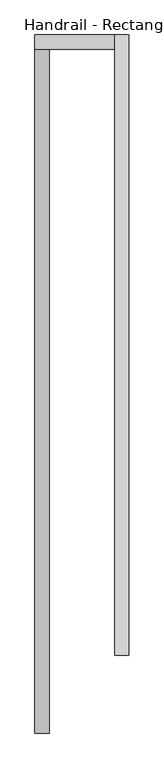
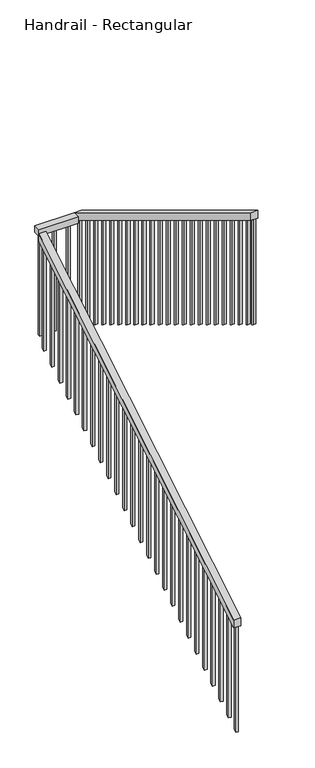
"""IFC4 building model written with IfcOpenShell, lengths in millimetres: railing geometry, Handrail - Rectangular."""

from ifc_helpers import new_model, si_unit, frame, origin, place, context, project, spatial, polyline, outline, extrude, source, transform, mapped, element, save


def handrail_rectangular_f2ca4272(model_context):
    return source(origin(), model_context, "Body", "SweptSolid", [
        extrude(outline(polyline([(-12664.4103492, -2023.6681269), (-12664.4103492, -1964.2666667), (-10200.6103492, -471.0545455), (-10200.6103492, -530.4560057), (-12664.4103492, -2023.6681269)])), frame((-31627.7668129, 0.0, 0.0), z_axis=(1.0, 0.0, 0.0), x_axis=(0.0, 1.0, 0.0)), (0.0, 0.0, 1.0), 50.8),
        extrude(outline(polyline([(-31627.7668129, -10200.6103492), (-31627.7668129, -10149.8103492), (-31339.9187724, -10149.8103492), (-31339.9187724, -10200.6103492), (-31627.7668129, -10200.6103492)])), frame((0.0, 0.0, -491.0666667), z_axis=(0.0, 0.0, 1.0), x_axis=(1.0, 0.0, 0.0)), (0.0, 0.0, 1.0), 50.8),
        extrude(outline(polyline([(-10149.8103492, -440.2666667), (-10149.8103492, -499.6681269), (-12385.0103492, 854.9985397), (-12385.0103492, 914.4), (-10149.8103492, -440.2666667)])), frame((-31339.9187724, 0.0, 0.0), z_axis=(1.0, 0.0, 0.0), x_axis=(0.0, 1.0, 0.0)), (0.0, 0.0, 1.0), 50.8),
        extrude(outline(polyline([(-12318.3353492, 814.5894488), (-12299.2853492, 803.0439943), (-12299.2853492, -9.1733668), (-12318.3353492, 2.3720877), (-12318.3353492, 814.5894488)])), frame((-31324.0437724, 0.0, 0.0), z_axis=(1.0, 0.0, 0.0), x_axis=(0.0, 1.0, 0.0)), (0.0, 0.0, 1.0), 19.05),
        extrude(outline(polyline([(-12216.7353492, 753.0136913), (-12197.6853492, 741.4682367), (-12197.6853492, -70.7491244), (-12216.7353492, -59.2036699), (-12216.7353492, 753.0136913)])), frame((-31324.0437724, 0.0, 0.0), z_axis=(1.0, 0.0, 0.0), x_axis=(0.0, 1.0, 0.0)), (0.0, 0.0, 1.0), 19.05),
        extrude(outline(polyline([(-12115.1353492, 691.4379337), (-12096.0853492, 679.8924791), (-12096.0853492, -132.324882), (-12115.1353492, -120.7794274), (-12115.1353492, 691.4379337)])), frame((-31324.0437724, 0.0, 0.0), z_axis=(1.0, 0.0, 0.0), x_axis=(0.0, 1.0, 0.0)), (0.0, 0.0, 1.0), 19.05),
        extrude(outline(polyline([(-12013.5353492, 629.8621761), (-11994.4853492, 618.3167216), (-11994.4853492, -193.9006396), (-12013.5353492, -182.355185), (-12013.5353492, 629.8621761)])), frame((-31324.0437724, 0.0, 0.0), z_axis=(1.0, 0.0, 0.0), x_axis=(0.0, 1.0, 0.0)), (0.0, 0.0, 1.0), 19.05),
        extrude(outline(polyline([(-11911.9353492, 568.2864185), (-11892.8853492, 556.740964), (-11892.8853492, -255.4763971), (-11911.9353492, -243.9309426), (-11911.9353492, 568.2864185)])), frame((-31324.0437724, 0.0, 0.0), z_axis=(1.0, 0.0, 0.0), x_axis=(0.0, 1.0, 0.0)), (0.0, 0.0, 1.0), 19.05),
        extrude(outline(polyline([(-11810.3353492, 506.710661), (-11791.2853492, 495.1652064), (-11791.2853492, -317.0521547), (-11810.3353492, -305.5067002), (-11810.3353492, 506.710661)])), frame((-31324.0437724, 0.0, 0.0), z_axis=(1.0, 0.0, 0.0), x_axis=(0.0, 1.0, 0.0)), (0.0, 0.0, 1.0), 19.05),
        extrude(outline(polyline([(-11708.7353492, 445.1349034), (-11689.6853492, 433.5894488), (-11689.6853492, -378.6279123), (-11708.7353492, -367.0824577), (-11708.7353492, 445.1349034)])), frame((-31324.0437724, 0.0, 0.0), z_axis=(1.0, 0.0, 0.0), x_axis=(0.0, 1.0, 0.0)), (0.0, 0.0, 1.0), 19.05),
        extrude(outline(polyline([(-11607.1353492, 383.5591458), (-11588.0853492, 372.0136913), (-11588.0853492, -440.2036699), (-11607.1353492, -428.6582153), (-11607.1353492, 383.5591458)])), frame((-31324.0437724, 0.0, 0.0), z_axis=(1.0, 0.0, 0.0), x_axis=(0.0, 1.0, 0.0)), (0.0, 0.0, 1.0), 19.05),
        extrude(outline(polyline([(-11505.5353492, 321.9833882), (-11486.4853492, 310.4379337), (-11486.4853492, -501.7794274), (-11505.5353492, -490.2339729), (-11505.5353492, 321.9833882)])), frame((-31324.0437724, 0.0, 0.0), z_axis=(1.0, 0.0, 0.0), x_axis=(0.0, 1.0, 0.0)), (0.0, 0.0, 1.0), 19.05),
        extrude(outline(polyline([(-11403.9353492, 260.4076307), (-11384.8853492, 248.8621761), (-11384.8853492, -563.355185), (-11403.9353492, -551.8097305), (-11403.9353492, 260.4076307)])), frame((-31324.0437724, 0.0, 0.0), z_axis=(1.0, 0.0, 0.0), x_axis=(0.0, 1.0, 0.0)), (0.0, 0.0, 1.0), 19.05),
        extrude(outline(polyline([(-11302.3353492, 198.8318731), (-11283.2853492, 187.2864185), (-11283.2853492, -624.9309426), (-11302.3353492, -613.385488), (-11302.3353492, 198.8318731)])), frame((-31324.0437724, 0.0, 0.0), z_axis=(1.0, 0.0, 0.0), x_axis=(0.0, 1.0, 0.0)), (0.0, 0.0, 1.0), 19.05),
        extrude(outline(polyline([(-11200.7353492, 137.2561155), (-11181.6853492, 125.710661), (-11181.6853492, -686.5067002), (-11200.7353492, -674.9612456), (-11200.7353492, 137.2561155)])), frame((-31324.0437724, 0.0, 0.0), z_axis=(1.0, 0.0, 0.0), x_axis=(0.0, 1.0, 0.0)), (0.0, 0.0, 1.0), 19.05),
        extrude(outline(polyline([(-11099.1353492, 75.6803579), (-11080.0853492, 64.1349034), (-11080.0853492, -748.0824577), (-11099.1353492, -736.5370032), (-11099.1353492, 75.6803579)])), frame((-31324.0437724, 0.0, 0.0), z_axis=(1.0, 0.0, 0.0), x_axis=(0.0, 1.0, 0.0)), (0.0, 0.0, 1.0), 19.05),
        extrude(outline(polyline([(-10997.5353492, 14.1046004), (-10978.4853492, 2.5591458), (-10978.4853492, -809.6582153), (-10997.5353492, -798.1127608), (-10997.5353492, 14.1046004)])), frame((-31324.0437724, 0.0, 0.0), z_axis=(1.0, 0.0, 0.0), x_axis=(0.0, 1.0, 0.0)), (0.0, 0.0, 1.0), 19.05),
        extrude(outline(polyline([(-10895.9353492, -47.4711572), (-10876.8853492, -59.0166118), (-10876.8853492, -871.2339729), (-10895.9353492, -859.6885183), (-10895.9353492, -47.4711572)])), frame((-31324.0437724, 0.0, 0.0), z_axis=(1.0, 0.0, 0.0), x_axis=(0.0, 1.0, 0.0)), (0.0, 0.0, 1.0), 19.05),
        extrude(outline(polyline([(-10794.3353492, -109.0469148), (-10775.2853492, -120.5923693), (-10775.2853492, -932.8097305), (-10794.3353492, -921.2642759), (-10794.3353492, -109.0469148)])), frame((-31324.0437724, 0.0, 0.0), z_axis=(1.0, 0.0, 0.0), x_axis=(0.0, 1.0, 0.0)), (0.0, 0.0, 1.0), 19.05),
        extrude(outline(polyline([(-10692.7353492, -170.6226724), (-10673.6853492, -182.1681269), (-10673.6853492, -994.385488), (-10692.7353492, -982.8400335), (-10692.7353492, -170.6226724)])), frame((-31324.0437724, 0.0, 0.0), z_axis=(1.0, 0.0, 0.0), x_axis=(0.0, 1.0, 0.0)), (0.0, 0.0, 1.0), 19.05),
        extrude(outline(polyline([(-10591.1353492, -232.19843), (-10572.0853492, -243.7438845), (-10572.0853492, -1055.9612456), (-10591.1353492, -1044.4157911), (-10591.1353492, -232.19843)])), frame((-31324.0437724, 0.0, 0.0), z_axis=(1.0, 0.0, 0.0), x_axis=(0.0, 1.0, 0.0)), (0.0, 0.0, 1.0), 19.05),
        extrude(outline(polyline([(-10489.5353492, -293.7741875), (-10470.4853492, -305.3196421), (-10470.4853492, -1117.5370032), (-10489.5353492, -1105.9915486), (-10489.5353492, -293.7741875)])), frame((-31324.0437724, 0.0, 0.0), z_axis=(1.0, 0.0, 0.0), x_axis=(0.0, 1.0, 0.0)), (0.0, 0.0, 1.0), 19.05),
        extrude(outline(polyline([(-10387.9353492, -355.3499451), (-10368.8853492, -366.8953996), (-10368.8853492, -1179.1127608), (-10387.9353492, -1167.5673062), (-10387.9353492, -355.3499451)])), frame((-31324.0437724, 0.0, 0.0), z_axis=(1.0, 0.0, 0.0), x_axis=(0.0, 1.0, 0.0)), (0.0, 0.0, 1.0), 19.05),
        extrude(outline(polyline([(-10286.3353492, -416.9257027), (-10267.2853492, -428.4711572), (-10267.2853492, -1240.6885183), (-10286.3353492, -1229.1430638), (-10286.3353492, -416.9257027)])), frame((-31324.0437724, 0.0, 0.0), z_axis=(1.0, 0.0, 0.0), x_axis=(0.0, 1.0, 0.0)), (0.0, 0.0, 1.0), 19.05),
        extrude(outline(polyline([(-31408.6918129, -10184.7353492), (-31408.6918129, -10165.6853492), (-31389.6418129, -10165.6853492), (-31389.6418129, -10184.7353492), (-31408.6918129, -10184.7353492)])), frame((0.0, 0.0, -1278.4666667), z_axis=(0.0, 0.0, 1.0), x_axis=(1.0, 0.0, 0.0)), (0.0, 0.0, 1.0), 787.4),
        extrude(outline(polyline([(-31510.2918129, -10184.7353492), (-31510.2918129, -10165.6853492), (-31491.2418129, -10165.6853492), (-31491.2418129, -10184.7353492), (-31510.2918129, -10184.7353492)])), frame((0.0, 0.0, -1278.4666667), z_axis=(0.0, 0.0, 1.0), x_axis=(1.0, 0.0, 0.0)), (0.0, 0.0, 1.0), 787.4),
        extrude(outline(polyline([(-10235.5353492, -551.6226724), (-10216.4853492, -540.0772178), (-10216.4853492, -1352.2945789), (-10235.5353492, -1363.8400335), (-10235.5353492, -551.6226724)])), frame((-31611.8918129, 0.0, 0.0), z_axis=(1.0, 0.0, 0.0), x_axis=(0.0, 1.0, 0.0)), (0.0, 0.0, 1.0), 19.05),
        extrude(outline(polyline([(-10337.1353492, -613.19843), (-10318.0853492, -601.6529754), (-10318.0853492, -1413.8703365), (-10337.1353492, -1425.4157911), (-10337.1353492, -613.19843)])), frame((-31611.8918129, 0.0, 0.0), z_axis=(1.0, 0.0, 0.0), x_axis=(0.0, 1.0, 0.0)), (0.0, 0.0, 1.0), 19.05),
        extrude(outline(polyline([(-10438.7353492, -674.7741875), (-10419.6853492, -663.228733), (-10419.6853492, -1475.4460941), (-10438.7353492, -1486.9915486), (-10438.7353492, -674.7741875)])), frame((-31611.8918129, 0.0, 0.0), z_axis=(1.0, 0.0, 0.0), x_axis=(0.0, 1.0, 0.0)), (0.0, 0.0, 1.0), 19.05),
        extrude(outline(polyline([(-10540.3353492, -736.3499451), (-10521.2853492, -724.8044906), (-10521.2853492, -1537.0218517), (-10540.3353492, -1548.5673062), (-10540.3353492, -736.3499451)])), frame((-31611.8918129, 0.0, 0.0), z_axis=(1.0, 0.0, 0.0), x_axis=(0.0, 1.0, 0.0)), (0.0, 0.0, 1.0), 19.05),
        extrude(outline(polyline([(-10641.9353492, -797.9257027), (-10622.8853492, -786.3802481), (-10622.8853492, -1598.5976092), (-10641.9353492, -1610.1430638), (-10641.9353492, -797.9257027)])), frame((-31611.8918129, 0.0, 0.0), z_axis=(1.0, 0.0, 0.0), x_axis=(0.0, 1.0, 0.0)), (0.0, 0.0, 1.0), 19.05),
        extrude(outline(polyline([(-10743.5353492, -859.5014603), (-10724.4853492, -847.9560057), (-10724.4853492, -1660.1733668), (-10743.5353492, -1671.7188214), (-10743.5353492, -859.5014603)])), frame((-31611.8918129, 0.0, 0.0), z_axis=(1.0, 0.0, 0.0), x_axis=(0.0, 1.0, 0.0)), (0.0, 0.0, 1.0), 19.05),
        extrude(outline(polyline([(-10845.1353492, -921.0772178), (-10826.0853492, -909.5317633), (-10826.0853492, -1721.7491244), (-10845.1353492, -1733.2945789), (-10845.1353492, -921.0772178)])), frame((-31611.8918129, 0.0, 0.0), z_axis=(1.0, 0.0, 0.0), x_axis=(0.0, 1.0, 0.0)), (0.0, 0.0, 1.0), 19.05),
        extrude(outline(polyline([(-10946.7353492, -982.6529754), (-10927.6853492, -971.1075209), (-10927.6853492, -1783.324882), (-10946.7353492, -1794.8703365), (-10946.7353492, -982.6529754)])), frame((-31611.8918129, 0.0, 0.0), z_axis=(1.0, 0.0, 0.0), x_axis=(0.0, 1.0, 0.0)), (0.0, 0.0, 1.0), 19.05),
        extrude(outline(polyline([(-11048.3353492, -1044.228733), (-11029.2853492, -1032.6832784), (-11029.2853492, -1844.9006396), (-11048.3353492, -1856.4460941), (-11048.3353492, -1044.228733)])), frame((-31611.8918129, 0.0, 0.0), z_axis=(1.0, 0.0, 0.0), x_axis=(0.0, 1.0, 0.0)), (0.0, 0.0, 1.0), 19.05),
        extrude(outline(polyline([(-11149.9353492, -1105.8044906), (-11130.8853492, -1094.259036), (-11130.8853492, -1906.4763971), (-11149.9353492, -1918.0218517), (-11149.9353492, -1105.8044906)])), frame((-31611.8918129, 0.0, 0.0), z_axis=(1.0, 0.0, 0.0), x_axis=(0.0, 1.0, 0.0)), (0.0, 0.0, 1.0), 19.05),
        extrude(outline(polyline([(-11251.5353492, -1167.3802481), (-11232.4853492, -1155.8347936), (-11232.4853492, -1968.0521547), (-11251.5353492, -1979.5976092), (-11251.5353492, -1167.3802481)])), frame((-31611.8918129, 0.0, 0.0), z_axis=(1.0, 0.0, 0.0), x_axis=(0.0, 1.0, 0.0)), (0.0, 0.0, 1.0), 19.05),
        extrude(outline(polyline([(-11353.1353492, -1228.9560057), (-11334.0853492, -1217.4105512), (-11334.0853492, -2029.6279123), (-11353.1353492, -2041.1733668), (-11353.1353492, -1228.9560057)])), frame((-31611.8918129, 0.0, 0.0), z_axis=(1.0, 0.0, 0.0), x_axis=(0.0, 1.0, 0.0)), (0.0, 0.0, 1.0), 19.05),
        extrude(outline(polyline([(-11454.7353492, -1290.5317633), (-11435.6853492, -1278.9863087), (-11435.6853492, -2091.2036699), (-11454.7353492, -2102.7491244), (-11454.7353492, -1290.5317633)])), frame((-31611.8918129, 0.0, 0.0), z_axis=(1.0, 0.0, 0.0), x_axis=(0.0, 1.0, 0.0)), (0.0, 0.0, 1.0), 19.05),
        extrude(outline(polyline([(-11556.3353492, -1352.1075209), (-11537.2853492, -1340.5620663), (-11537.2853492, -2152.7794274), (-11556.3353492, -2164.324882), (-11556.3353492, -1352.1075209)])), frame((-31611.8918129, 0.0, 0.0), z_axis=(1.0, 0.0, 0.0), x_axis=(0.0, 1.0, 0.0)), (0.0, 0.0, 1.0), 19.05),
        extrude(outline(polyline([(-11657.9353492, -1413.6832784), (-11638.8853492, -1402.1378239), (-11638.8853492, -2214.355185), (-11657.9353492, -2225.9006396), (-11657.9353492, -1413.6832784)])), frame((-31611.8918129, 0.0, 0.0), z_axis=(1.0, 0.0, 0.0), x_axis=(0.0, 1.0, 0.0)), (0.0, 0.0, 1.0), 19.05),
        extrude(outline(polyline([(-11759.5353492, -1475.259036), (-11740.4853492, -1463.7135815), (-11740.4853492, -2275.9309426), (-11759.5353492, -2287.4763971), (-11759.5353492, -1475.259036)])), frame((-31611.8918129, 0.0, 0.0), z_axis=(1.0, 0.0, 0.0), x_axis=(0.0, 1.0, 0.0)), (0.0, 0.0, 1.0), 19.05),
        extrude(outline(polyline([(-11861.1353492, -1536.8347936), (-11842.0853492, -1525.289339), (-11842.0853492, -2337.5067002), (-11861.1353492, -2349.0521547), (-11861.1353492, -1536.8347936)])), frame((-31611.8918129, 0.0, 0.0), z_axis=(1.0, 0.0, 0.0), x_axis=(0.0, 1.0, 0.0)), (0.0, 0.0, 1.0), 19.05),
        extrude(outline(polyline([(-11962.7353492, -1598.4105512), (-11943.6853492, -1586.8650966), (-11943.6853492, -2399.0824577), (-11962.7353492, -2410.6279123), (-11962.7353492, -1598.4105512)])), frame((-31611.8918129, 0.0, 0.0), z_axis=(1.0, 0.0, 0.0), x_axis=(0.0, 1.0, 0.0)), (0.0, 0.0, 1.0), 19.05),
        extrude(outline(polyline([(-12064.3353492, -1659.9863087), (-12045.2853492, -1648.4408542), (-12045.2853492, -2460.6582153), (-12064.3353492, -2472.2036699), (-12064.3353492, -1659.9863087)])), frame((-31611.8918129, 0.0, 0.0), z_axis=(1.0, 0.0, 0.0), x_axis=(0.0, 1.0, 0.0)), (0.0, 0.0, 1.0), 19.05),
        extrude(outline(polyline([(-12165.9353492, -1721.5620663), (-12146.8853492, -1710.0166118), (-12146.8853492, -2522.2339729), (-12165.9353492, -2533.7794274), (-12165.9353492, -1721.5620663)])), frame((-31611.8918129, 0.0, 0.0), z_axis=(1.0, 0.0, 0.0), x_axis=(0.0, 1.0, 0.0)), (0.0, 0.0, 1.0), 19.05),
        extrude(outline(polyline([(-12267.5353492, -1783.1378239), (-12248.4853492, -1771.5923693), (-12248.4853492, -2583.8097305), (-12267.5353492, -2595.355185), (-12267.5353492, -1783.1378239)])), frame((-31611.8918129, 0.0, 0.0), z_axis=(1.0, 0.0, 0.0), x_axis=(0.0, 1.0, 0.0)), (0.0, 0.0, 1.0), 19.05),
        extrude(outline(polyline([(-12369.1353492, -1844.7135815), (-12350.0853492, -1833.1681269), (-12350.0853492, -2645.385488), (-12369.1353492, -2656.9309426), (-12369.1353492, -1844.7135815)])), frame((-31611.8918129, 0.0, 0.0), z_axis=(1.0, 0.0, 0.0), x_axis=(0.0, 1.0, 0.0)), (0.0, 0.0, 1.0), 19.05),
        extrude(outline(polyline([(-12470.7353492, -1906.289339), (-12451.6853492, -1894.7438845), (-12451.6853492, -2706.9612456), (-12470.7353492, -2718.5067002), (-12470.7353492, -1906.289339)])), frame((-31611.8918129, 0.0, 0.0), z_axis=(1.0, 0.0, 0.0), x_axis=(0.0, 1.0, 0.0)), (0.0, 0.0, 1.0), 19.05),
        extrude(outline(polyline([(-12572.3353492, -1967.8650966), (-12553.2853492, -1956.3196421), (-12553.2853492, -2768.5370032), (-12572.3353492, -2780.0824577), (-12572.3353492, -1967.8650966)])), frame((-31611.8918129, 0.0, 0.0), z_axis=(1.0, 0.0, 0.0), x_axis=(0.0, 1.0, 0.0)), (0.0, 0.0, 1.0), 19.05),
        extrude(outline(polyline([(-10184.7353492, -478.5014603), (-10165.6853492, -490.0469148), (-10165.6853492, -1278.4666667), (-10184.7353492, -1278.4666667), (-10184.7353492, -478.5014603)])), frame((-31324.0437724, 0.0, 0.0), z_axis=(1.0, 0.0, 0.0), x_axis=(0.0, 1.0, 0.0)), (0.0, 0.0, 1.0), 19.05),
        extrude(outline(polyline([(-31611.8918129, -10184.7353492), (-31611.8918129, -10165.6853492), (-31592.8418129, -10165.6853492), (-31592.8418129, -10184.7353492), (-31611.8918129, -10184.7353492)])), frame((0.0, 0.0, -1278.4666667), z_axis=(0.0, 0.0, 1.0), x_axis=(1.0, 0.0, 0.0)), (0.0, 0.0, 1.0), 787.4),
        extrude(outline(polyline([(-12385.0103492, 854.9985397), (-12365.9603492, 843.4530852), (-12365.9603492, 31.2357241), (-12385.0103492, 42.7811786), (-12385.0103492, 854.9985397)])), frame((-31324.0437724, 0.0, 0.0), z_axis=(1.0, 0.0, 0.0), x_axis=(0.0, 1.0, 0.0)), (0.0, 0.0, 1.0), 19.05),
        extrude(outline(polyline([(-12664.4103492, -2023.6681269), (-12645.3603492, -2012.1226724), (-12645.3603492, -2824.3400335), (-12664.4103492, -2835.885488), (-12664.4103492, -2023.6681269)])), frame((-31611.8918129, 0.0, 0.0), z_axis=(1.0, 0.0, 0.0), x_axis=(0.0, 1.0, 0.0)), (0.0, 0.0, 1.0), 19.05),
    ])


if __name__ == "__main__":
    model = new_model("IFC4")
    model_context = context("Model", 3, world=origin())
    ifc_project = project(units=[si_unit("LENGTHUNIT", "METRE", prefix="MILLI")], contexts=[model_context])
    site = spatial("IfcSite", under=ifc_project)
    building = spatial("IfcBuilding", under=site)
    placement = place(None, origin())
    handrail_rectangular_shape = handrail_rectangular_f2ca4272(model_context)
    element("IfcRailing", 1, ObjectType="Handrail - Rectangular", at=placement, inside=building, context=model_context, shape_type="MappedRepresentation", body=[
        mapped(handrail_rectangular_shape, transform((0.0, 0.0, 0.0), x_axis=(1.0, 0.0, 0.0), y_axis=(0.0, 1.0, 0.0), z_axis=(0.0, 0.0, 1.0))),
    ])
    save(model, "model.ifc")
